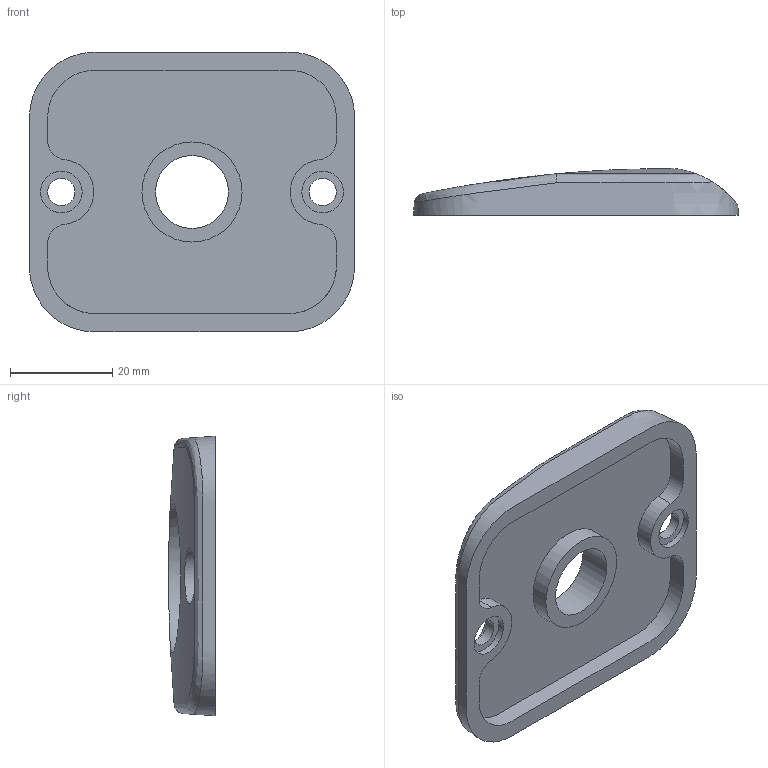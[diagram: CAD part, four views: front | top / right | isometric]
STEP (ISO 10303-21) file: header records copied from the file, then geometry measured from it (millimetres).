
FILE_DESCRIPTION(/* description */ (''),/* implementation_level */ '2;1');
FILE_NAME(/* name */ 'Sight Cap Machinable .step',/* time_stamp */ '2024-05-11T16:49:52-05:00',/* author */ (''),/* organization */ (''),/* preprocessor_version */ 'ST-DEVELOPER v20',/* originating_system */ 'Autodesk Translation Framework v12.20.1.177',/* authorisation */ '');
FILE_SCHEMA (('AUTOMOTIVE_DESIGN { 1 0 10303 214 3 1 1 }'));
Length unit declared in the file: inch
Products named in the file (1): update
Bounding box: 63.5 x 9.14 x 54.61 mm (x, y, z)
Volume: 13164.9 mm3; surface area: 9145.9 mm2
Topology: 1 solids, 1 shells, 453 faces, 1246 edges, 831 vertices
Faces by surface type: bspline 229, plane 204, cylinder 20
Full cylindrical faces by diameter (mm): 5.334 x2, 8.128 x2, 14.224 x1, 19.558 x1, 29.972 x1
Entity records: 17666 total; most frequent: CARTESIAN_POINT 7673, ORIENTED_EDGE 2492, EDGE_CURVE 1246, DIRECTION 1244, VERTEX_POINT 831, LINE 740, VECTOR 740, EDGE_LOOP 495
